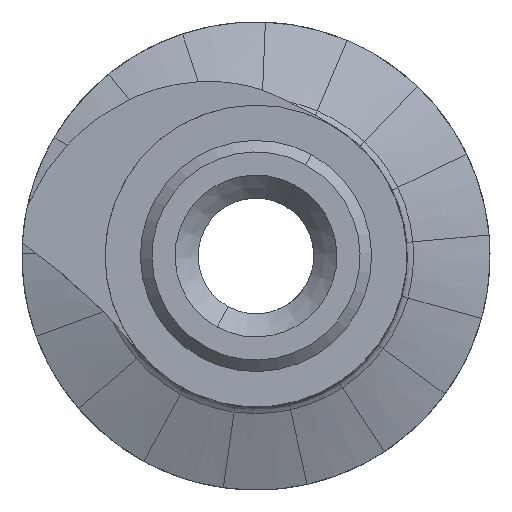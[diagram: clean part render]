
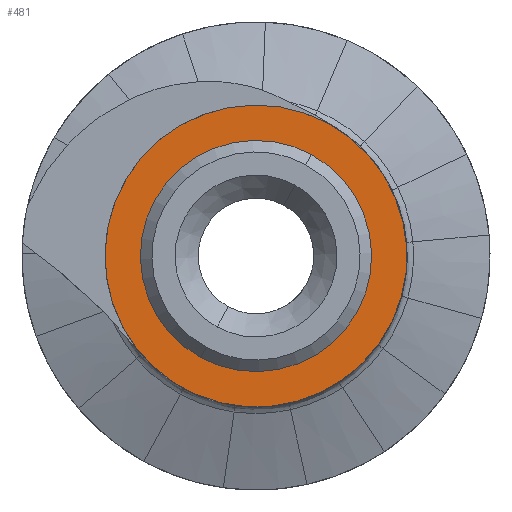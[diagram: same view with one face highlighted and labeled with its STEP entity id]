
A CAD part, front view. The second image highlights one B-rep face of the part: STEP entity #481.
In plain terms, the highlighted planar face has unit normal (0, -1, 0).
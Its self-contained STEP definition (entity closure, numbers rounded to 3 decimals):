
#425=AXIS2_PLACEMENT_3D('Circle Axis2P3D',#423,#424,$) ;
#444=AXIS2_PLACEMENT_3D('Circle Axis2P3D',#442,#443,$) ;
#457=AXIS2_PLACEMENT_3D('Plane Axis2P3D',#454,#455,#456) ;
#461=AXIS2_PLACEMENT_3D('Circle Axis2P3D',#459,#460,$) ;
#470=AXIS2_PLACEMENT_3D('Circle Axis2P3D',#468,#469,$) ;
#420=CARTESIAN_POINT('Vertex',(-0.959,2.25,-1.755)) ;
#423=CARTESIAN_POINT('Axis2P3D Location',(0.,2.25,0.)) ;
#427=CARTESIAN_POINT('Vertex',(0.959,2.25,1.755)) ;
#442=CARTESIAN_POINT('Axis2P3D Location',(0.,2.25,0.)) ;
#454=CARTESIAN_POINT('Axis2P3D Location',(0.,2.25,2.)) ;
#459=CARTESIAN_POINT('Axis2P3D Location',(0.,2.25,0.)) ;
#463=CARTESIAN_POINT('Vertex',(2.541,2.25,0.602)) ;
#465=CARTESIAN_POINT('Vertex',(1.252,2.25,2.292)) ;
#468=CARTESIAN_POINT('Axis2P3D Location',(0.,2.25,0.)) ;
#424=DIRECTION('Axis2P3D Direction',(0.,1.,0.)) ;
#443=DIRECTION('Axis2P3D Direction',(0.,1.,0.)) ;
#455=DIRECTION('Axis2P3D Direction',(-0.,1.,0.)) ;
#456=DIRECTION('Axis2P3D XDirection',(1.,0.,0.)) ;
#460=DIRECTION('Axis2P3D Direction',(-0.,1.,0.)) ;
#469=DIRECTION('Axis2P3D Direction',(-0.,1.,0.)) ;
#474=ORIENTED_EDGE('',*,*,#467,.F.) ;
#475=ORIENTED_EDGE('',*,*,#472,.F.) ;
#478=ORIENTED_EDGE('',*,*,#446,.T.) ;
#479=ORIENTED_EDGE('',*,*,#429,.T.) ;
#480=FACE_BOUND('',#477,.T.) ;
#481=ADVANCED_FACE('Body.1',(#476,#480),#458,.F.) ;
#426=CIRCLE('generated circle',#425,2.) ;
#445=CIRCLE('generated circle',#444,2.) ;
#462=CIRCLE('generated circle',#461,2.611) ;
#471=CIRCLE('generated circle',#470,2.611) ;
#429=EDGE_CURVE('',#428,#421,#426,.T.) ;
#446=EDGE_CURVE('',#421,#428,#445,.T.) ;
#467=EDGE_CURVE('',#464,#466,#462,.T.) ;
#472=EDGE_CURVE('',#466,#464,#471,.T.) ;
#473=EDGE_LOOP('',(#474,#475)) ;
#477=EDGE_LOOP('',(#478,#479)) ;
#476=FACE_OUTER_BOUND('',#473,.T.) ;
#458=PLANE('Plane',#457) ;
#421=VERTEX_POINT('',#420) ;
#428=VERTEX_POINT('',#427) ;
#464=VERTEX_POINT('',#463) ;
#466=VERTEX_POINT('',#465) ;
